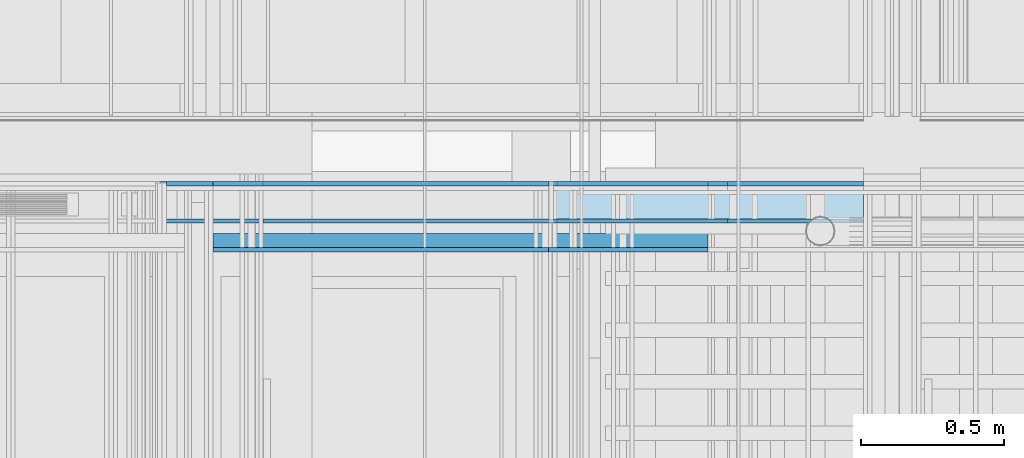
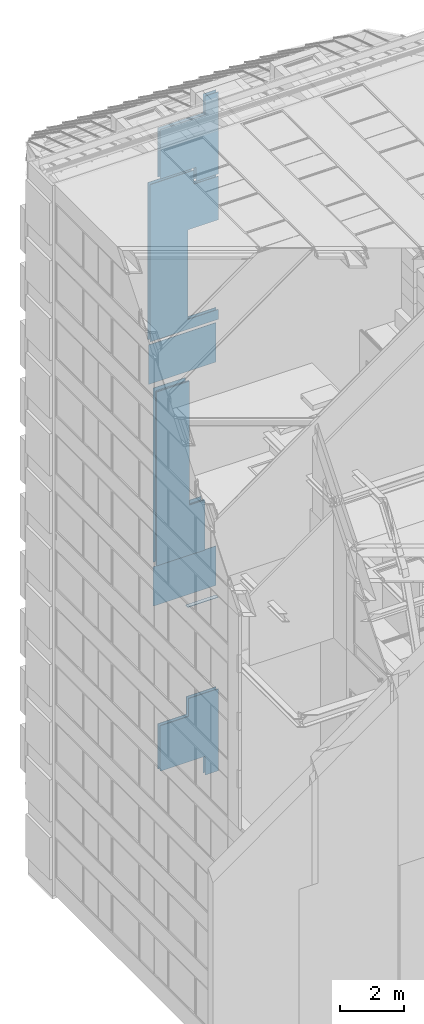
# One storey, part 268 of 583: 12 slabs.
"""IFC2X3 building model written with IfcOpenShell, lengths in metres."""

import ifcopenshell
import ifcopenshell.guid

model = None  # the IFC model being written
_history = None  # IfcOwnerHistory: only IFC2X3 demands one
_inside = {}  # id of a spatial element -> (the spatial element, [elements in it])
_under = {}  # id of a project, library or spatial element -> (it, [spatial elements below it])
_declared = {}  # id of a project -> (the project, [libraries it declares])
_typed = {}  # id of a type object -> (the type object, [elements of that type])
_made_of = {}  # id of a material, layer set ... -> (it, [elements and type objects made of it])


def new_model(schema):
    """Start an empty IFC model of exactly this schema.

    Asked for "IFC4X3", IfcOpenShell would pick the latest addendum, in which some entities
    have other attributes; the version numbers below select the first issue.
    IFC2X3 requires an IfcOwnerHistory on every rooted entity: one is made here for all.
    """
    global model, _history
    if schema == "IFC4X3":
        model = ifcopenshell.file(schema_version=(4, 3, 0, 0))
    else:
        model = ifcopenshell.file(schema=schema)
    _inside.clear()
    _under.clear()
    _declared.clear()
    _typed.clear()
    _made_of.clear()
    _history = None
    if model.schema == "IFC2X3":
        org = make("IfcOrganization", Name="unknown")
        user = make(
            "IfcPersonAndOrganization",
            ThePerson=make("IfcPerson", FamilyName="unknown"),
            TheOrganization=org,
        )
        app = make(
            "IfcApplication",
            ApplicationDeveloper=org,
            Version="unknown",
            ApplicationFullName="unknown",
            ApplicationIdentifier="unknown",
        )
        _history = make(
            "IfcOwnerHistory",
            OwningUser=user,
            OwningApplication=app,
            ChangeAction="ADDED",
            CreationDate=0,
        )
    return model


def make(cls, **values):
    """One entity of the class cls with the attributes given. An attribute that is None is left unset."""
    return model.create_entity(
        cls, **{name: value for name, value in values.items() if value is not None}
    )


def entity(cls, *values):
    """Any entity or typed value of the class cls, its attributes in the order of the schema. None: left unset."""
    e = model.create_entity(cls)
    for i, value in enumerate(values):
        if value is not None:
            e[i] = value
    return e


def rooted(cls, **values):
    """An entity with a GlobalId (a new one), such as an element, a storey or a relation."""
    return make(cls, GlobalId=ifcopenshell.guid.new(), OwnerHistory=_history, **values)


def si_unit(unit_type, name, prefix=None):
    """IfcSIUnit, for example si_unit("LENGTHUNIT", "METRE", prefix="MILLI")."""
    return make("IfcSIUnit", UnitType=unit_type, Prefix=prefix, Name=name)


def converted_unit(unit_type, name, factor, base, dimensions=None, offset=None):
    """IfcConversionBasedUnit, such as the inch: factor (a typed value) times the base unit."""
    return make(
        "IfcConversionBasedUnit"
        if offset is None
        else "IfcConversionBasedUnitWithOffset",
        ConversionOffset=offset,
        Dimensions=None
        if dimensions is None
        else entity("IfcDimensionalExponents", *dimensions),
        UnitType=unit_type,
        Name=name,
        ConversionFactor=make(
            "IfcMeasureWithUnit", ValueComponent=factor, UnitComponent=base
        ),
    )


def derived_unit(unit_type, elements):
    """IfcDerivedUnit: a product of units, each with its exponent."""
    return make(
        "IfcDerivedUnit",
        Elements=[
            make("IfcDerivedUnitElement", Unit=unit, Exponent=power)
            for unit, power in elements
        ],
        UnitType=unit_type,
    )


def money_unit(currency):
    """IfcMonetaryUnit."""
    return make("IfcMonetaryUnit", Currency=currency)


def assignment(units):
    """IfcUnitAssignment: the units of a project."""
    return None if units is None else make("IfcUnitAssignment", Units=units)


def point(xyz):
    """IfcCartesianPoint."""
    return None if xyz is None else make("IfcCartesianPoint", Coordinates=xyz)


def direction(xyz):
    """IfcDirection."""
    return None if xyz is None else make("IfcDirection", DirectionRatios=xyz)


def frame(location, z_axis=None, x_axis=None):
    """IfcAxis2Placement3D, a coordinate frame: its origin and axes. An axis left out is left unset."""
    return make(
        "IfcAxis2Placement3D",
        Location=point(location),
        Axis=direction(z_axis),
        RefDirection=direction(x_axis),
    )


def origin_with_axes():
    """The frame at (0, 0, 0) with the z axis (0, 0, 1) and the x axis (1, 0, 0) written out."""
    return frame((0.0, 0.0, 0.0), z_axis=(0.0, 0.0, 1.0), x_axis=(1.0, 0.0, 0.0))


def place(relative_to, where):
    """IfcLocalPlacement: puts the frame where relative to a parent placement (None: the world)."""
    return make(
        "IfcLocalPlacement", PlacementRelTo=relative_to, RelativePlacement=where
    )


def context(
    kind, dimensions, precision=None, world=None, true_north=None, identifier=None
):
    """IfcGeometricRepresentationContext, for example the 3D "Model" context."""
    return make(
        "IfcGeometricRepresentationContext",
        ContextIdentifier=identifier,
        ContextType=kind,
        CoordinateSpaceDimension=dimensions,
        Precision=precision,
        WorldCoordinateSystem=world,
        TrueNorth=true_north,
    )


def subcontext(parent, identifier, kind, view, scale=None):
    """IfcGeometricRepresentationSubContext, for example "Body" below "Model"."""
    return make(
        "IfcGeometricRepresentationSubContext",
        ContextIdentifier=identifier,
        ContextType=kind,
        ParentContext=parent,
        TargetScale=scale,
        TargetView=view,
    )


def project(units=None, contexts=None):
    """IfcProject with its units and contexts."""
    return rooted(
        "IfcProject",
        Name="project",
        RepresentationContexts=contexts,
        UnitsInContext=assignment(units),
    )


def spatial(cls, under=None, at=None, **own):
    """A site, building, storey or space (cls), placed at a placement, below another one or the project."""
    s = rooted(cls, ObjectPlacement=at, **own)
    if under is not None:
        _under.setdefault(under.id(), (under, []))[1].append(s)
    return s


def faces_of(points, faces, orient=None, outer=None):
    """IfcFace entities. A face is a list of loops; a loop is a list of indices into points, from 0.

    orient and outer hold one flag for each loop. By default every Orientation is true, the
    first loop of a face is its IfcFaceOuterBound and the others are IfcFaceBound.
    """
    made = []
    for i, loops in enumerate(faces):
        bounds = []
        for j, loop in enumerate(loops):
            is_outer = j == 0 if outer is None else outer[i][j]
            bounds.append(
                make(
                    "IfcFaceOuterBound" if is_outer else "IfcFaceBound",
                    Bound=make("IfcPolyLoop", Polygon=[points[k] for k in loop]),
                    Orientation=True if orient is None else orient[i][j],
                )
            )
        made.append(make("IfcFace", Bounds=bounds))
    return made


def faceted_brep(points, faces, orient=None, outer=None, voids=None):
    """IfcFacetedBrep: a solid bounded by flat faces; with voids (closed shells), ...WithVoids."""
    shared = [point(p) for p in points]
    hull = make("IfcClosedShell", CfsFaces=faces_of(shared, faces, orient, outer))
    if voids is None:
        return make("IfcFacetedBrep", Outer=hull)
    return make(
        "IfcFacetedBrepWithVoids",
        Outer=hull,
        Voids=[
            make(cls, CfsFaces=faces_of(shared, fs, o, b)) for cls, fs, o, b in voids
        ],
    )


def shape(context_of_items, identifier, shape_type, items):
    """IfcShapeRepresentation: the items that make up one representation, for example the "Body"."""
    return make(
        "IfcShapeRepresentation",
        ContextOfItems=context_of_items,
        RepresentationIdentifier=identifier,
        RepresentationType=shape_type,
        Items=items,
    )


def material(Name=None, Category=None):
    """IfcMaterial."""
    return make("IfcMaterial", Name=Name, Category=Category)


def made_of(thing, what):
    """Note that an element or type object is made of a material, layer set ...; save() writes the relation."""
    if what is not None:
        _made_of.setdefault(what.id(), (what, []))[1].append(thing)
    return thing


def type_object(cls, material=None, **own):
    """A type object (cls), such as IfcWallType, which elements share."""
    return made_of(rooted(cls, **own), material)


def element(
    cls,
    number,
    at=None,
    inside=None,
    cuts=None,
    type_object=None,
    material=None,
    context=None,
    identifier="Body",
    shape_type=None,
    held_by="IfcProductDefinitionShape",
    body=None,
    shapes=None,
    **own,
):
    """One element of the class cls, such as IfcWall. Its Tag is "e" and its number.

    at: its placement. inside: the storey or other place that contains it. cuts: it is an
    opening in that element (IfcRelVoidsElement). A single representation is given by context,
    identifier, shape_type and body (its items); several are given by shapes. held_by: the class
    of the entity that holds the representations. save() writes the other relations.
    """
    e = rooted(cls, Tag="e%d" % number, ObjectPlacement=at, **own)
    if body is not None:
        shapes = [shape(context, identifier, shape_type, body)]
    if shapes is not None:
        e.Representation = make(held_by, Representations=shapes)
    if inside is not None:
        _inside.setdefault(inside.id(), (inside, []))[1].append(e)
    if cuts is not None:
        rooted(
            "IfcRelVoidsElement", RelatingBuildingElement=cuts, RelatedOpeningElement=e
        )
    if type_object is not None:
        _typed.setdefault(type_object.id(), (type_object, []))[1].append(e)
    return made_of(e, material)


def aggregate(whole, parts):
    """IfcRelAggregates: a whole, such as a stair, and the parts it consists of."""
    return rooted("IfcRelAggregates", RelatingObject=whole, RelatedObjects=parts)


def save(model, path):
    """Write the relations noted so far, then the file.

    IfcRelAggregates (storeys below a building ...), IfcRelContainedInSpatialStructure (elements
    in a storey), IfcRelDefinesByType, IfcRelAssociatesMaterial and IfcRelDeclares: one each for
    every whole, place, type object, material and project.
    """
    for whole, parts in _under.values():
        aggregate(whole, parts)
    for where, things in _inside.values():
        rooted(
            "IfcRelContainedInSpatialStructure",
            RelatedElements=things,
            RelatingStructure=where,
        )
    for kind, things in _typed.values():
        rooted("IfcRelDefinesByType", RelatedObjects=things, RelatingType=kind)
    for what, things in _made_of.values():
        rooted("IfcRelAssociatesMaterial", RelatedObjects=things, RelatingMaterial=what)
    for by, libraries in _declared.values():
        rooted("IfcRelDeclares", RelatingContext=by, RelatedDefinitions=libraries)
    model.write(path)


model = new_model("IFC2X3")

# Units and contexts
model_context = context("Model", 3, precision=1e-05, world=origin_with_axes(), true_north=direction((0.0, 1.0)))
body_context = subcontext(model_context, "Body", "Model", "MODEL_VIEW", scale=1.0)
ifc_project = project(units=[si_unit("LENGTHUNIT", "METRE"), si_unit("AREAUNIT", "SQUARE_METRE"), si_unit("VOLUMEUNIT", "CUBIC_METRE"), si_unit("ABSORBEDDOSEUNIT", "GRAY"), si_unit("AMOUNTOFSUBSTANCEUNIT", "MOLE"), si_unit("DOSEEQUIVALENTUNIT", "SIEVERT"), si_unit("ELECTRICCAPACITANCEUNIT", "FARAD"), si_unit("ELECTRICCHARGEUNIT", "COULOMB"), si_unit("ELECTRICCONDUCTANCEUNIT", "SIEMENS"), si_unit("ELECTRICCURRENTUNIT", "AMPERE"), si_unit("ELECTRICRESISTANCEUNIT", "OHM"), si_unit("ELECTRICVOLTAGEUNIT", "VOLT"), si_unit("ENERGYUNIT", "JOULE"), si_unit("FORCEUNIT", "NEWTON"), si_unit("FREQUENCYUNIT", "HERTZ"), si_unit("ILLUMINANCEUNIT", "LUX"), si_unit("INDUCTANCEUNIT", "HENRY"), si_unit("LUMINOUSFLUXUNIT", "LUMEN"), si_unit("LUMINOUSINTENSITYUNIT", "CANDELA"), si_unit("MAGNETICFLUXDENSITYUNIT", "TESLA"), si_unit("MAGNETICFLUXUNIT", "WEBER"), si_unit("MASSUNIT", "GRAM"), converted_unit("PLANEANGLEUNIT", "degree", entity("IfcReal", 0.0174532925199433), si_unit("PLANEANGLEUNIT", "RADIAN"), dimensions=[0, 0, 0, 0, 0, 0, 0]), si_unit("POWERUNIT", "WATT"), si_unit("PRESSUREUNIT", "PASCAL"), si_unit("RADIOACTIVITYUNIT", "BECQUEREL"), si_unit("SOLIDANGLEUNIT", "STERADIAN"), si_unit("THERMODYNAMICTEMPERATUREUNIT", "KELVIN"), si_unit("TIMEUNIT", "SECOND"), derived_unit("ACCELERATIONUNIT", [(si_unit("LENGTHUNIT", "METRE"), 1), (si_unit("TIMEUNIT", "SECOND"), -2)]), derived_unit("ANGULARVELOCITYUNIT", [(converted_unit("PLANEANGLEUNIT", "degree", entity("IfcReal", 0.0174532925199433), si_unit("PLANEANGLEUNIT", "RADIAN"), dimensions=[0, 0, 0, 0, 0, 0, 0]), 1), (si_unit("TIMEUNIT", "SECOND"), -1)]), derived_unit("CURVATUREUNIT", [(converted_unit("PLANEANGLEUNIT", "degree", entity("IfcReal", 0.0174532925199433), si_unit("PLANEANGLEUNIT", "RADIAN"), dimensions=[0, 0, 0, 0, 0, 0, 0]), 1), (si_unit("LENGTHUNIT", "METRE"), -1)]), derived_unit("DYNAMICVISCOSITYUNIT", [(si_unit("PRESSUREUNIT", "PASCAL"), 1), (si_unit("TIMEUNIT", "SECOND"), 1)]), derived_unit("HEATFLUXDENSITYUNIT", [(si_unit("POWERUNIT", "WATT"), 1), (si_unit("LENGTHUNIT", "METRE"), -2)]), derived_unit("HEATINGVALUEUNIT", [(si_unit("ENERGYUNIT", "JOULE"), 1), (si_unit("MASSUNIT", "GRAM"), -1)]), derived_unit("INTEGERCOUNTRATEUNIT", [(si_unit("TIMEUNIT", "SECOND"), -1)]), derived_unit("IONCONCENTRATIONUNIT", [(si_unit("MASSUNIT", "GRAM"), 1), (si_unit("VOLUMEUNIT", "CUBIC_METRE"), -1)]), derived_unit("ISOTHERMALMOISTURECAPACITYUNIT", [(si_unit("VOLUMEUNIT", "CUBIC_METRE"), 1), (si_unit("MASSUNIT", "GRAM"), -1)]), derived_unit("KINEMATICVISCOSITYUNIT", [(si_unit("AREAUNIT", "SQUARE_METRE"), 1), (si_unit("TIMEUNIT", "SECOND"), -1)]), derived_unit("LINEARFORCEUNIT", [(si_unit("FORCEUNIT", "NEWTON"), 1), (si_unit("LENGTHUNIT", "METRE"), -1)]), derived_unit("LINEARMOMENTUNIT", [(si_unit("FORCEUNIT", "NEWTON"), 1), (si_unit("LENGTHUNIT", "METRE"), -1)]), derived_unit("LINEARSTIFFNESSUNIT", [(si_unit("FORCEUNIT", "NEWTON"), 1), (si_unit("LENGTHUNIT", "METRE"), -1)]), derived_unit("LINEARVELOCITYUNIT", [(si_unit("LENGTHUNIT", "METRE"), 1), (si_unit("TIMEUNIT", "SECOND"), -1)]), derived_unit("LUMINOUSINTENSITYDISTRIBUTIONUNIT", [(si_unit("LUMINOUSINTENSITYUNIT", "CANDELA"), 1), (si_unit("LUMINOUSFLUXUNIT", "LUMEN"), -1)]), derived_unit("MASSDENSITYUNIT", [(si_unit("MASSUNIT", "GRAM"), 1), (si_unit("VOLUMEUNIT", "CUBIC_METRE"), -1)]), derived_unit("MASSFLOWRATEUNIT", [(si_unit("MASSUNIT", "GRAM"), 1), (si_unit("TIMEUNIT", "SECOND"), -1)]), derived_unit("MASSPERLENGTHUNIT", [(si_unit("MASSUNIT", "GRAM"), 1), (si_unit("LENGTHUNIT", "METRE"), -1)]), derived_unit("MODULUSOFELASTICITYUNIT", [(si_unit("FORCEUNIT", "NEWTON"), 1), (si_unit("AREAUNIT", "SQUARE_METRE"), -1)]), derived_unit("MODULUSOFLINEARSUBGRADEREACTIONUNIT", [(si_unit("FORCEUNIT", "NEWTON"), 1), (si_unit("LENGTHUNIT", "METRE"), -2)]), derived_unit("MODULUSOFROTATIONALSUBGRADEREACTIONUNIT", [(si_unit("FORCEUNIT", "NEWTON"), 1), (si_unit("LENGTHUNIT", "METRE"), 1)]), derived_unit("MODULUSOFSUBGRADEREACTIONUNIT", [(si_unit("FORCEUNIT", "NEWTON"), 1), (si_unit("VOLUMEUNIT", "CUBIC_METRE"), -1)]), derived_unit("MOISTUREDIFFUSIVITYUNIT", [(si_unit("VOLUMEUNIT", "CUBIC_METRE"), 1), (si_unit("TIMEUNIT", "SECOND"), -1)]), derived_unit("MOLECULARWEIGHTUNIT", [(si_unit("MASSUNIT", "GRAM"), 1), (si_unit("AMOUNTOFSUBSTANCEUNIT", "MOLE"), -1)]), derived_unit("PLANARFORCEUNIT", [(si_unit("FORCEUNIT", "NEWTON"), 1), (si_unit("LENGTHUNIT", "METRE"), -2)]), derived_unit("ROTATIONALFREQUENCYUNIT", [(si_unit("TIMEUNIT", "SECOND"), -1)]), derived_unit("ROTATIONALMASSUNIT", [(si_unit("MASSUNIT", "GRAM"), 1), (si_unit("LENGTHUNIT", "METRE"), 2)]), derived_unit("ROTATIONALSTIFFNESSUNIT", [(si_unit("FORCEUNIT", "NEWTON"), 1), (si_unit("LENGTHUNIT", "METRE"), 1), (converted_unit("PLANEANGLEUNIT", "degree", entity("IfcReal", 0.0174532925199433), si_unit("PLANEANGLEUNIT", "RADIAN"), dimensions=[0, 0, 0, 0, 0, 0, 0]), -1)]), derived_unit("SECTIONAREAINTEGRALUNIT", [(si_unit("LENGTHUNIT", "METRE"), 5)]), derived_unit("SECTIONMODULUSUNIT", [(si_unit("LENGTHUNIT", "METRE"), 3)]), derived_unit("SHEARMODULUSUNIT", [(si_unit("FORCEUNIT", "NEWTON"), 1), (si_unit("AREAUNIT", "SQUARE_METRE"), -1)]), derived_unit("SOUNDPOWERUNIT", [(si_unit("ENERGYUNIT", "JOULE"), 1), (si_unit("TIMEUNIT", "SECOND"), -1)]), derived_unit("SPECIFICHEATCAPACITYUNIT", [(si_unit("FORCEUNIT", "NEWTON"), 1), (si_unit("MASSUNIT", "GRAM"), -1), (si_unit("THERMODYNAMICTEMPERATUREUNIT", "KELVIN"), -1)]), derived_unit("TEMPERATUREGRADIENTUNIT", [(si_unit("THERMODYNAMICTEMPERATUREUNIT", "KELVIN"), 1), (si_unit("LENGTHUNIT", "METRE"), -1)]), derived_unit("THERMALADMITTANCEUNIT", [(si_unit("POWERUNIT", "WATT"), 1), (si_unit("AREAUNIT", "SQUARE_METRE"), -1), (si_unit("THERMODYNAMICTEMPERATUREUNIT", "KELVIN"), -1)]), derived_unit("THERMALCONDUCTANCEUNIT", [(si_unit("POWERUNIT", "WATT"), 1), (si_unit("LENGTHUNIT", "METRE"), -1), (si_unit("THERMODYNAMICTEMPERATUREUNIT", "KELVIN"), -1)]), derived_unit("THERMALEXPANSIONCOEFFICIENTUNIT", [(si_unit("THERMODYNAMICTEMPERATUREUNIT", "KELVIN"), -1)]), derived_unit("THERMALRESISTANCEUNIT", [(si_unit("AREAUNIT", "SQUARE_METRE"), 1), (si_unit("POWERUNIT", "WATT"), -1)]), derived_unit("THERMALTRANSMITTANCEUNIT", [(si_unit("POWERUNIT", "WATT"), 1), (si_unit("AREAUNIT", "SQUARE_METRE"), -1), (si_unit("THERMODYNAMICTEMPERATUREUNIT", "KELVIN"), -1)]), derived_unit("TORQUEUNIT", [(si_unit("FORCEUNIT", "NEWTON"), 1), (si_unit("LENGTHUNIT", "METRE"), 1)]), derived_unit("VAPORPERMEABILITYUNIT", [(si_unit("MASSUNIT", "GRAM"), 1), (si_unit("TIMEUNIT", "SECOND"), -1)]), derived_unit("VOLUMETRICFLOWRATEUNIT", [(si_unit("VOLUMEUNIT", "CUBIC_METRE"), 1), (si_unit("TIMEUNIT", "SECOND"), -1)]), derived_unit("WARPINGCONSTANTUNIT", [(si_unit("LENGTHUNIT", "METRE"), 6)]), derived_unit("WARPINGMOMENTUNIT", [(si_unit("FORCEUNIT", "NEWTON"), 1), (si_unit("LENGTHUNIT", "METRE"), 2)]), money_unit("GBP")], contexts=[model_context])

# Site, building, storey
site_placement = place(None, origin_with_axes())
site = spatial("IfcSite", under=ifc_project, at=site_placement, Name="Site", CompositionType="ELEMENT")
building_placement = place(site_placement, origin_with_axes())
building = spatial("IfcBuilding", under=site, at=building_placement, Name="Building01", CompositionType="ELEMENT")
storey_placement = place(building_placement, frame((0.0, 0.0, 20.78), z_axis=(0.0, 0.0, 1.0), x_axis=(1.0, 0.0, 0.0)))
storey = spatial("IfcBuildingStorey", under=building, at=storey_placement, Name="RL", CompositionType="ELEMENT", Elevation=20.78)

# Slabs
ifc_material_1 = material(Name="A_BSUK_CeilingSoffitFinishes_Suspended")
slab_type_1 = type_object("IfcSlabType", Name="A-FloorsSlabs A_BSUK_Slabs", PredefinedType="FLOOR")
placement = place(storey_placement, frame((0.0, 0.0, -20.78), z_axis=(0.0, 0.0, 1.0), x_axis=(1.0, 0.0, 0.0)))
element("IfcSlab", 1, at=placement, inside=storey, type_object=slab_type_1, material=ifc_material_1, Name="A-FloorsSlabs A_BSUK_Slabs", ObjectType="CompoundSlabLeaf", context=body_context, shape_type="Brep", body=[
    faceted_brep([(7.284939, 17.438, 3.715111), (7.284939, 17.453, 3.715111), (6.279939, 17.453, 3.715111), (6.279939, 17.438, 3.715111), (7.349939, 17.438, 3.715111), (7.349939, 17.453, 3.715111), (7.349939, 17.438, 0.599939), (7.349939, 17.453, 0.599939), (6.874964, 17.438, 0.599939), (6.874964, 17.453, 0.599939), (6.874964, 17.438, 1.312402), (6.874964, 17.453, 1.312402), (5.254976, 17.438, 1.312402), (5.254976, 17.453, 1.312402), (5.254976, 17.438, 3.039976), (5.254976, 17.453, 3.039976), (6.279939, 17.438, 3.039976), (6.279939, 17.453, 3.039976)], [[[0, 1, 2, 3]], [[4, 5, 1, 0]], [[6, 7, 5, 4]], [[8, 9, 7, 6]], [[10, 11, 9, 8]], [[12, 13, 11, 10]], [[14, 15, 13, 12]], [[16, 17, 15, 14]], [[3, 2, 17, 16]], [[1, 5, 7, 9, 11, 13, 15, 17, 2]], [[3, 16, 14, 12, 10, 8, 6, 4, 0]]]),
])
element("IfcSlab", 2, at=placement, inside=storey, type_object=slab_type_1, material=ifc_material_1, Name="A-FloorsSlabs A_BSUK_Slabs", ObjectType="CompoundSlabLeaf", context=body_context, shape_type="Brep", body=[
    faceted_brep([(5.08, 17.438, 7.56), (5.08, 17.453, 7.56), (7.349939, 17.453, 7.56), (7.349939, 17.438, 7.56), (5.08, 17.438, 9.06), (5.08, 17.453, 9.06), (7.349939, 17.438, 9.06), (7.349939, 17.453, 9.06)], [[[0, 1, 2, 3]], [[4, 5, 1, 0]], [[6, 7, 5, 4]], [[3, 2, 7, 6]], [[1, 5, 7, 2]], [[3, 6, 4, 0]]]),
])
element("IfcSlab", 3, at=placement, inside=storey, type_object=slab_type_1, material=ifc_material_1, Name="A-FloorsSlabs A_BSUK_Slabs", ObjectType="CompoundSlabLeaf", context=body_context, shape_type="Brep", body=[
    faceted_brep([(7.349915, 17.438, 16.03844), (7.349915, 17.453, 16.03844), (7.349915, 17.453, 17.53844), (7.349915, 17.438, 17.53844), (4.917, 17.438, 16.03844), (4.917, 17.453, 16.03844), (4.917, 17.438, 17.53844), (4.917, 17.453, 17.53844)], [[[0, 1, 2, 3]], [[4, 5, 1, 0]], [[6, 7, 5, 4]], [[3, 2, 7, 6]], [[1, 5, 7, 2]], [[3, 6, 4, 0]]]),
])
element("IfcSlab", 4, at=placement, inside=storey, type_object=slab_type_1, material=ifc_material_1, Name="A-FloorsSlabs A_BSUK_Slabs", ObjectType="CompoundSlabLeaf", context=body_context, shape_type="Brep", body=[
    faceted_brep([(7.349915, 17.438, 17.73844), (7.349915, 17.453, 17.73844), (7.349915, 17.453, 18.11844), (7.349915, 17.438, 18.11844), (4.897, 17.438, 17.73844), (4.897, 17.453, 17.73844), (4.897, 17.438, 23.71), (4.897, 17.453, 23.71), (6.470085, 17.438, 23.71), (6.470085, 17.453, 23.71), (6.470085, 17.438, 23.178821), (6.470085, 17.453, 23.178821), (7.349915, 17.438, 23.178821), (7.349915, 17.453, 23.178821), (7.349915, 17.438, 21.51844), (7.349915, 17.453, 21.51844), (6.252627, 17.438, 21.51844), (6.252627, 17.453, 21.51844), (6.252627, 17.438, 18.11844), (6.252627, 17.453, 18.11844)], [[[0, 1, 2, 3]], [[4, 5, 1, 0]], [[6, 7, 5, 4]], [[8, 9, 7, 6]], [[10, 11, 9, 8]], [[12, 13, 11, 10]], [[14, 15, 13, 12]], [[16, 17, 15, 14]], [[18, 19, 17, 16]], [[3, 2, 19, 18]], [[1, 5, 7, 9, 11, 13, 15, 17, 19, 2]], [[3, 18, 16, 14, 12, 10, 8, 6, 4, 0]]]),
])
element("IfcSlab", 5, at=placement, inside=storey, type_object=slab_type_1, material=ifc_material_1, Name="A-FloorsSlabs A_BSUK_Slabs", ObjectType="CompoundSlabLeaf", context=body_context, shape_type="Brep", body=[
    faceted_brep([(7.349915, 17.438, 23.258821), (7.349915, 17.453, 23.258821), (7.349915, 17.453, 26.380061), (7.349915, 17.438, 26.380061), (6.550085, 17.438, 23.258821), (6.550085, 17.453, 23.258821), (6.550085, 17.438, 23.79), (6.550085, 17.453, 23.79), (5.254915, 17.438, 23.79), (5.254915, 17.453, 23.79), (5.254915, 17.438, 25.667598), (5.254915, 17.453, 25.667598), (6.874964, 17.438, 25.667598), (6.874964, 17.453, 25.667598), (6.874964, 17.438, 26.380061), (6.874964, 17.453, 26.380061)], [[[0, 1, 2, 3]], [[4, 5, 1, 0]], [[6, 7, 5, 4]], [[8, 9, 7, 6]], [[10, 11, 9, 8]], [[12, 13, 11, 10]], [[14, 15, 13, 12]], [[3, 2, 15, 14]], [[1, 5, 7, 9, 11, 13, 15, 2]], [[3, 14, 12, 10, 8, 6, 4, 0]]]),
])
element("IfcSlab", 6, at=placement, inside=storey, type_object=slab_type_1, material=ifc_material_1, Name="A-FloorsSlabs A_BSUK_Slabs", ObjectType="CompoundSlabLeaf", context=body_context, shape_type="Brep", body=[
    faceted_brep([(5.08, 17.438, 9.23), (5.08, 17.453, 9.23), (6.807, 17.453, 9.23), (6.807, 17.438, 9.23), (5.08, 17.438, 15.83844), (5.08, 17.453, 15.83844), (6.25, 17.438, 15.83844), (6.25, 17.453, 15.83844), (6.25, 17.438, 11.13), (6.25, 17.453, 11.13), (6.807, 17.438, 11.13), (6.807, 17.453, 11.13)], [[[0, 1, 2, 3]], [[4, 5, 1, 0]], [[6, 7, 5, 4]], [[8, 9, 7, 6]], [[10, 11, 9, 8]], [[3, 2, 11, 10]], [[1, 5, 7, 9, 11, 2]], [[3, 10, 8, 6, 4, 0]]]),
])
element("IfcSlab", 7, at=placement, inside=storey, type_object=slab_type_1, material=ifc_material_1, Name="A-FloorsSlabs A_BSUK_Slabs", ObjectType="CompoundSlabLeaf", context=body_context, shape_type="Brep", body=[
    faceted_brep([(5.08, 17.208, 9.23), (5.08, 17.223, 9.23), (6.807, 17.223, 9.23), (6.807, 17.208, 9.23), (5.08, 17.208, 15.83844), (5.08, 17.223, 15.83844), (6.25, 17.208, 15.83844), (6.25, 17.223, 15.83844), (6.25, 17.208, 11.13), (6.25, 17.223, 11.13), (6.807, 17.208, 11.13), (6.807, 17.223, 11.13)], [[[0, 1, 2, 3]], [[4, 5, 1, 0]], [[6, 7, 5, 4]], [[8, 9, 7, 6]], [[10, 11, 9, 8]], [[3, 2, 11, 10]], [[1, 5, 7, 9, 11, 2]], [[3, 10, 8, 6, 4, 0]]]),
])
element("IfcSlab", 8, at=placement, inside=storey, type_object=slab_type_1, material=ifc_material_1, Name="A-FloorsSlabs A_BSUK_Slabs", ObjectType="CompoundSlabLeaf", context=body_context, shape_type="Brep", body=[
    faceted_brep([(7.284939, 17.308, 3.715111), (7.284939, 17.323, 3.715111), (6.279939, 17.323, 3.715111), (6.279939, 17.308, 3.715111), (7.349939, 17.308, 3.715111), (7.349939, 17.323, 3.715111), (7.349939, 17.308, 0.599939), (7.349939, 17.323, 0.599939), (6.874964, 17.308, 0.599939), (6.874964, 17.323, 0.599939), (6.874964, 17.308, 1.312402), (6.874964, 17.323, 1.312402), (5.254976, 17.308, 1.312402), (5.254976, 17.323, 1.312402), (5.254976, 17.308, 3.039976), (5.254976, 17.323, 3.039976), (6.279939, 17.308, 3.039976), (6.279939, 17.323, 3.039976)], [[[0, 1, 2, 3]], [[4, 5, 1, 0]], [[6, 7, 5, 4]], [[8, 9, 7, 6]], [[10, 11, 9, 8]], [[12, 13, 11, 10]], [[14, 15, 13, 12]], [[16, 17, 15, 14]], [[3, 2, 17, 16]], [[1, 5, 7, 9, 11, 13, 15, 17, 2]], [[3, 16, 14, 12, 10, 8, 6, 4, 0]]]),
])
element("IfcSlab", 9, at=placement, inside=storey, type_object=slab_type_1, material=ifc_material_1, Name="A-FloorsSlabs A_BSUK_Slabs", ObjectType="CompoundSlabLeaf", context=body_context, shape_type="Brep", body=[
    faceted_brep([(7.349915, 17.308, 23.258821), (7.349915, 17.323, 23.258821), (7.349915, 17.323, 26.380061), (7.349915, 17.308, 26.380061), (6.550085, 17.308, 23.258821), (6.550085, 17.323, 23.258821), (6.550085, 17.308, 23.79), (6.550085, 17.323, 23.79), (5.254915, 17.308, 23.79), (5.254915, 17.323, 23.79), (5.254915, 17.308, 25.667598), (5.254915, 17.323, 25.667598), (6.874964, 17.308, 25.667598), (6.874964, 17.323, 25.667598), (6.874964, 17.308, 26.380061), (6.874964, 17.323, 26.380061)], [[[0, 1, 2, 3]], [[4, 5, 1, 0]], [[6, 7, 5, 4]], [[8, 9, 7, 6]], [[10, 11, 9, 8]], [[12, 13, 11, 10]], [[14, 15, 13, 12]], [[3, 2, 15, 14]], [[1, 5, 7, 9, 11, 13, 15, 2]], [[3, 14, 12, 10, 8, 6, 4, 0]]]),
])
element("IfcSlab", 10, at=placement, inside=storey, type_object=slab_type_1, material=ifc_material_1, Name="A-FloorsSlabs A_BSUK_Slabs", ObjectType="CompoundSlabLeaf", context=body_context, shape_type="Brep", body=[
    faceted_brep([(7.349915, 17.308, 17.73844), (7.349915, 17.323, 17.73844), (7.349915, 17.323, 18.11844), (7.349915, 17.308, 18.11844), (4.897, 17.308, 17.73844), (4.897, 17.323, 17.73844), (4.897, 17.308, 23.71), (4.897, 17.323, 23.71), (6.470085, 17.308, 23.71), (6.470085, 17.323, 23.71), (6.470085, 17.308, 23.178821), (6.470085, 17.323, 23.178821), (7.349915, 17.308, 23.178821), (7.349915, 17.323, 23.178821), (7.349915, 17.308, 21.51844), (7.349915, 17.323, 21.51844), (6.252627, 17.308, 21.51844), (6.252627, 17.323, 21.51844), (6.252627, 17.308, 18.11844), (6.252627, 17.323, 18.11844)], [[[0, 1, 2, 3]], [[4, 5, 1, 0]], [[6, 7, 5, 4]], [[8, 9, 7, 6]], [[10, 11, 9, 8]], [[12, 13, 11, 10]], [[14, 15, 13, 12]], [[16, 17, 15, 14]], [[18, 19, 17, 16]], [[3, 2, 19, 18]], [[1, 5, 7, 9, 11, 13, 15, 17, 19, 2]], [[3, 18, 16, 14, 12, 10, 8, 6, 4, 0]]]),
])
element("IfcSlab", 11, at=placement, inside=storey, type_object=slab_type_1, material=ifc_material_1, Name="A-FloorsSlabs A_BSUK_Slabs", ObjectType="CompoundSlabLeaf", context=body_context, shape_type="Brep", body=[
    faceted_brep([(7.349939, 17.308, 7.195111), (7.349939, 17.308, 7.180111), (7.349939, 17.453, 7.180111), (7.349939, 17.453, 7.195111), (6.252627, 17.308, 7.195111), (6.252627, 17.308, 7.180111), (6.252627, 17.453, 7.195111), (6.252627, 17.453, 7.180111)], [[[0, 1, 2, 3]], [[4, 5, 1, 0]], [[6, 7, 5, 4]], [[3, 2, 7, 6]], [[1, 5, 7, 2]], [[3, 6, 4, 0]]]),
])
ifc_material_2 = material(Name="A_BSUK_ExpandedPolystyreneBoards")
slab_type_2 = type_object("IfcSlabType", Name="A-FloorsSlabs A_BSUK_ExpandedPolystyreneBoards", PredefinedType="FLOOR")
element("IfcSlab", 12, at=placement, inside=storey, type_object=slab_type_2, material=ifc_material_2, Name="A-FloorsSlabs A_BSUK_ExpandedPolystyreneBoards", ObjectType="CompoundSlabLeaf", context=body_context, shape_type="Brep", body=[
    faceted_brep([(5.08, 17.223, 9.23), (5.08, 17.273, 9.23), (6.807, 17.273, 9.23), (6.807, 17.223, 9.23), (5.08, 17.223, 15.83844), (5.08, 17.273, 15.83844), (6.25, 17.223, 15.83844), (6.25, 17.273, 15.83844), (6.25, 17.223, 11.13), (6.25, 17.273, 11.13), (6.807, 17.223, 11.13), (6.807, 17.273, 11.13)], [[[0, 1, 2, 3]], [[4, 5, 1, 0]], [[6, 7, 5, 4]], [[8, 9, 7, 6]], [[10, 11, 9, 8]], [[3, 2, 11, 10]], [[1, 5, 7, 9, 11, 2]], [[3, 10, 8, 6, 4, 0]]]),
])

save(model, "model.ifc")
